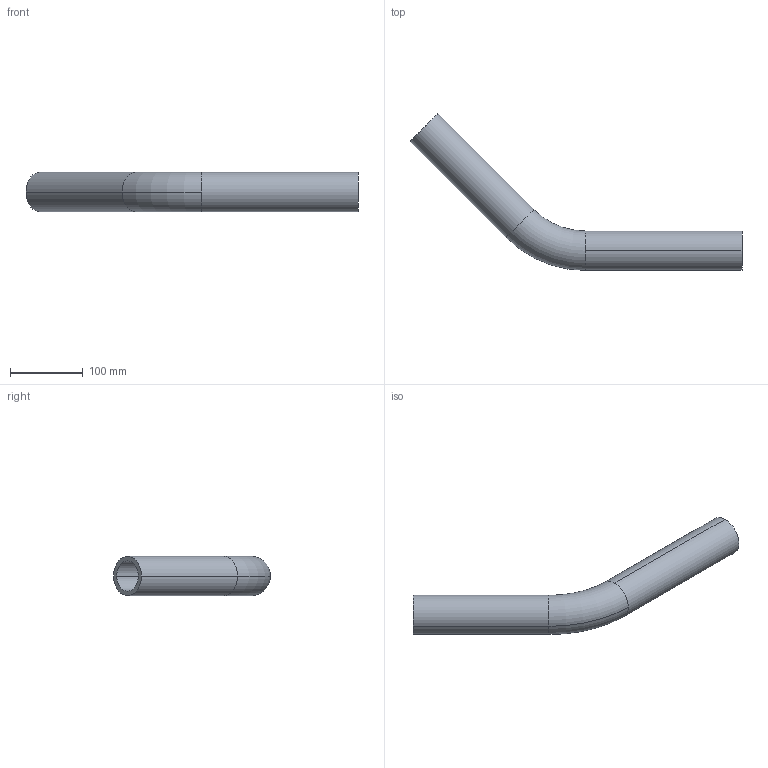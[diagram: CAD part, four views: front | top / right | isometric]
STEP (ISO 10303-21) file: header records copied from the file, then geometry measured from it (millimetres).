
FILE_DESCRIPTION (( 'STEP AP203' ), '1' );
FILE_NAME ('KP_4-54F.step', '2011-08-08T11:40:30', ( '' ), ( '' ), 'SwSTEP 2.0', 'SolidWorks 2011', '' );
FILE_SCHEMA (( 'CONFIG_CONTROL_DESIGN' ));
Length unit declared in the file: millimetre
Products named in the file (1): KP_4-54F
Bounding box: 455 x 215 x 54 mm (x, y, z)
Volume: 465900.6 mm3; surface area: 152152.6 mm2
Topology: 1 solids, 1 shells, 14 faces, 32 edges, 20 vertices
Faces by surface type: cylinder 8, torus 4, plane 2
Entity records: 489 total; most frequent: DIRECTION 86, CARTESIAN_POINT 67, ORIENTED_EDGE 64, AXIS2_PLACEMENT_3D 39, EDGE_CURVE 32, CIRCLE 24, VERTEX_POINT 20, EDGE_LOOP 16
